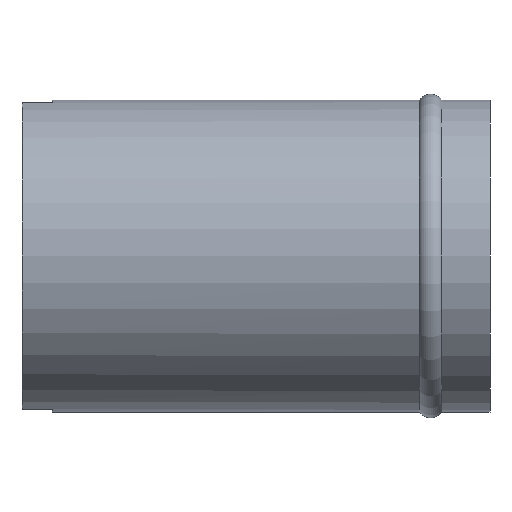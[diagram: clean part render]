
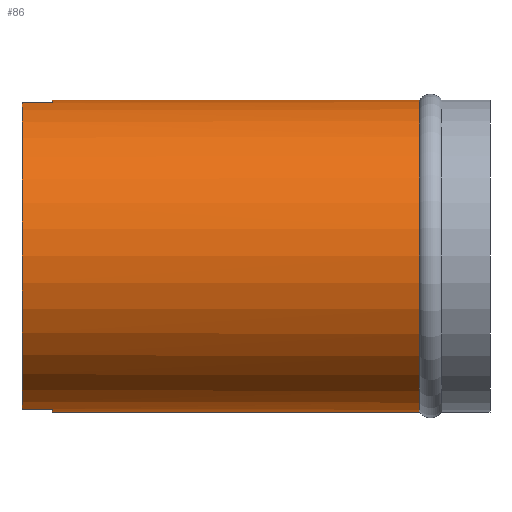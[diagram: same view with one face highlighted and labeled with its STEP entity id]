
A CAD part, front view. The second image highlights one B-rep face of the part: STEP entity #86.
In plain terms, the highlighted cylindrical face has radius 5 mm (diameter 10 mm), a partial arc.
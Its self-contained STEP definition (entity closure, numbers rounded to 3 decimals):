
#2 = EDGE_CURVE ( 'NONE', #265, #83, #6, .T. ) ;
#5 = CARTESIAN_POINT ( 'NONE',  ( 0., -0.964, -4.906 ) ) ;
#6 = LINE ( 'NONE', #5, #11 ) ;
#11 = VECTOR ( 'NONE', #333, 1000. ) ;
#13 = CARTESIAN_POINT ( 'NONE',  ( 0.974, -0.964, -4.906 ) ) ;
#20 = CYLINDRICAL_SURFACE ( 'NONE', #172, 5. ) ;
#33 = CARTESIAN_POINT ( 'NONE',  ( 0., 0., -5. ) ) ;
#36 = LINE ( 'NONE', #33, #166 ) ;
#39 = DIRECTION ( 'NONE',  ( 0., 0., 1. ) ) ;
#57 = ORIENTED_EDGE ( 'NONE', *, *, #2, .T. ) ;
#63 = DIRECTION ( 'NONE',  ( -1., 0., 0. ) ) ;
#64 = ORIENTED_EDGE ( 'NONE', *, *, #313, .T. ) ;
#65 = DIRECTION ( 'NONE',  ( -1., 0., 0. ) ) ;
#68 = CARTESIAN_POINT ( 'NONE',  ( 0., 0., 0. ) ) ;
#79 = CARTESIAN_POINT ( 'NONE',  ( 0.974, 0., 0. ) ) ;
#83 = VERTEX_POINT ( 'NONE', #13 ) ;
#84 = EDGE_CURVE ( 'NONE', #287, #370, #36, .T. ) ;
#86 = ADVANCED_FACE ( 'NONE', ( #141 ), #20, .T. ) ;
#90 = ORIENTED_EDGE ( 'NONE', *, *, #148, .T. ) ;
#100 = ORIENTED_EDGE ( 'NONE', *, *, #209, .T. ) ;
#102 = CARTESIAN_POINT ( 'NONE',  ( 0., 0., 0. ) ) ;
#103 = CIRCLE ( 'NONE', #292, 5. ) ;
#110 = VERTEX_POINT ( 'NONE', #173 ) ;
#118 = LINE ( 'NONE', #158, #288 ) ;
#120 = DIRECTION ( 'NONE',  ( -1., 0., 0. ) ) ;
#136 = DIRECTION ( 'NONE',  ( -1., 0., 0. ) ) ;
#141 = FACE_OUTER_BOUND ( 'NONE', #225, .T. ) ;
#148 = EDGE_CURVE ( 'NONE', #110, #178, #219, .T. ) ;
#158 = CARTESIAN_POINT ( 'NONE',  ( 0., -0.964, 4.906 ) ) ;
#160 = CARTESIAN_POINT ( 'NONE',  ( 0., 0., 5. ) ) ;
#166 = VECTOR ( 'NONE', #65, 1000. ) ;
#169 = VECTOR ( 'NONE', #120, 1000. ) ;
#172 = AXIS2_PLACEMENT_3D ( 'NONE', #68, #63, #39 ) ;
#173 = CARTESIAN_POINT ( 'NONE',  ( 12.739, 0., 5. ) ) ;
#178 = VERTEX_POINT ( 'NONE', #229 ) ;
#181 = VERTEX_POINT ( 'NONE', #308 ) ;
#187 = CIRCLE ( 'NONE', #319, 5. ) ;
#198 = EDGE_CURVE ( 'NONE', #287, #110, #378, .T. ) ;
#209 = EDGE_CURVE ( 'NONE', #83, #370, #213, .T. ) ;
#210 = DIRECTION ( 'NONE',  ( -1., 0., 0. ) ) ;
#211 = CARTESIAN_POINT ( 'NONE',  ( 0.974, 0., -5. ) ) ;
#213 = CIRCLE ( 'NONE', #346, 5. ) ;
#219 = LINE ( 'NONE', #160, #169 ) ;
#225 = EDGE_LOOP ( 'NONE', ( #289, #323, #90, #357, #64, #361, #57, #100 ) ) ;
#229 = CARTESIAN_POINT ( 'NONE',  ( 0.974, 0., 5. ) ) ;
#231 = CARTESIAN_POINT ( 'NONE',  ( 12.739, 0., 0. ) ) ;
#235 = DIRECTION ( 'NONE',  ( 0., 0., 1. ) ) ;
#249 = VERTEX_POINT ( 'NONE', #269 ) ;
#258 = AXIS2_PLACEMENT_3D ( 'NONE', #231, #311, #235 ) ;
#259 = CARTESIAN_POINT ( 'NONE',  ( 0.974, 0., 0. ) ) ;
#260 = DIRECTION ( 'NONE',  ( 1., 0., 0. ) ) ;
#263 = DIRECTION ( 'NONE',  ( 0., 0., -1. ) ) ;
#265 = VERTEX_POINT ( 'NONE', #278 ) ;
#269 = CARTESIAN_POINT ( 'NONE',  ( 0.974, -0.964, 4.906 ) ) ;
#278 = CARTESIAN_POINT ( 'NONE',  ( 0., -0.964, -4.906 ) ) ;
#287 = VERTEX_POINT ( 'NONE', #299 ) ;
#288 = VECTOR ( 'NONE', #136, 1000. ) ;
#289 = ORIENTED_EDGE ( 'NONE', *, *, #84, .F. ) ;
#292 = AXIS2_PLACEMENT_3D ( 'NONE', #79, #363, #368 ) ;
#299 = CARTESIAN_POINT ( 'NONE',  ( 12.739, 0., -5. ) ) ;
#308 = CARTESIAN_POINT ( 'NONE',  ( 0., -0.964, 4.906 ) ) ;
#311 = DIRECTION ( 'NONE',  ( -1., 0., 0. ) ) ;
#313 = EDGE_CURVE ( 'NONE', #249, #181, #118, .T. ) ;
#319 = AXIS2_PLACEMENT_3D ( 'NONE', #102, #210, #320 ) ;
#320 = DIRECTION ( 'NONE',  ( 0., 0., 1. ) ) ;
#323 = ORIENTED_EDGE ( 'NONE', *, *, #198, .T. ) ;
#328 = EDGE_CURVE ( 'NONE', #265, #181, #187, .T. ) ;
#333 = DIRECTION ( 'NONE',  ( 1., 0., 0. ) ) ;
#346 = AXIS2_PLACEMENT_3D ( 'NONE', #259, #260, #263 ) ;
#357 = ORIENTED_EDGE ( 'NONE', *, *, #359, .T. ) ;
#359 = EDGE_CURVE ( 'NONE', #178, #249, #103, .T. ) ;
#361 = ORIENTED_EDGE ( 'NONE', *, *, #328, .F. ) ;
#363 = DIRECTION ( 'NONE',  ( 1., 0., 0. ) ) ;
#368 = DIRECTION ( 'NONE',  ( 0., 0., -1. ) ) ;
#370 = VERTEX_POINT ( 'NONE', #211 ) ;
#378 = CIRCLE ( 'NONE', #258, 5. ) ;
